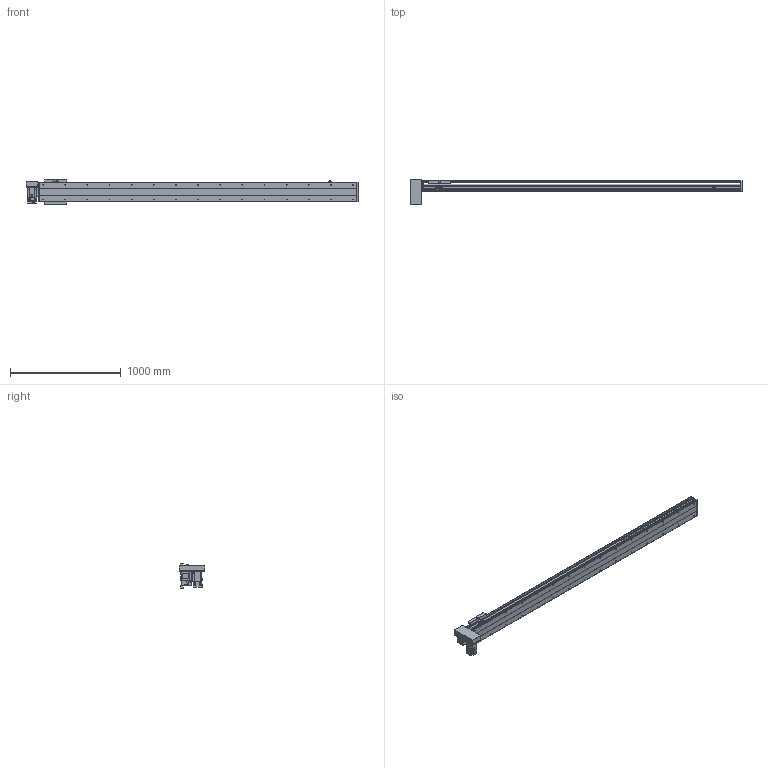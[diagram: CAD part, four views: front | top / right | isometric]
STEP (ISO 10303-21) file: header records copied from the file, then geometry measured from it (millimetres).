
FILE_DESCRIPTION(/* description */ ('STEP AP214'),/* implementation_level */ '2;1');
FILE_NAME(/* name */ 'PBS200-P40-S2500-RD-T75-C1-N(0)',/* time_stamp */ '2022-06-11T09:31:54+02:00',/* author */ ('License CC BY-ND 4.0'),/* organization */ ('CADENAS'),/* preprocessor_version */ 'ST-DEVELOPER v18.102',/* originating_system */ 'PARTsolutions',/* authorisation */ ' ');
FILE_SCHEMA (('AUTOMOTIVE_DESIGN {1 0 10303 214 3 1 1}'));
Length unit declared in the file: millimetre
Products named in the file (7): PBS200-P40-S2500-RD-T75-C1-N(0); PBS200_sensor; PBS200_plant; PBS200_sliser; T75-p1; PBS200T-RD_motors; PBS200-S2500()_body
Assembly tree (8 placements, depth 2):
  PBS200-P40-S2500-RD-T75-C1-N(0)
    PBS200_sensor  x3
    PBS200_plant
    PBS200_sliser
    T75-p1
    PBS200T-RD_motors
    PBS200-S2500()_body
Bounding box: 3000 x 230 x 221 mm (x, y, z)
Volume: 20604311.7 mm3; surface area: 3296122 mm2
Topology: 8 solids, 8 shells, 962 faces, 2444 edges, 1590 vertices
Faces by surface type: plane 588, cylinder 312, cone 62
Full cylindrical faces by diameter (mm): 2.459 x6, 3.242 x4, 4.5 x6, 4.917 x4, 5 x6, 6 x7, 6.6 x8, 6.647 x34, 8 x6, 10 x4, 12 x8, 38 x2, 40 x1, 70 x1
Entity records: 25421 total; most frequent: DIRECTION 4495, CARTESIAN_POINT 4318, ORIENTED_EDGE 4066, EDGE_CURVE 2033, AXIS2_PLACEMENT_3D 1591, VERTEX_POINT 1414, LINE 1313, VECTOR 1313
